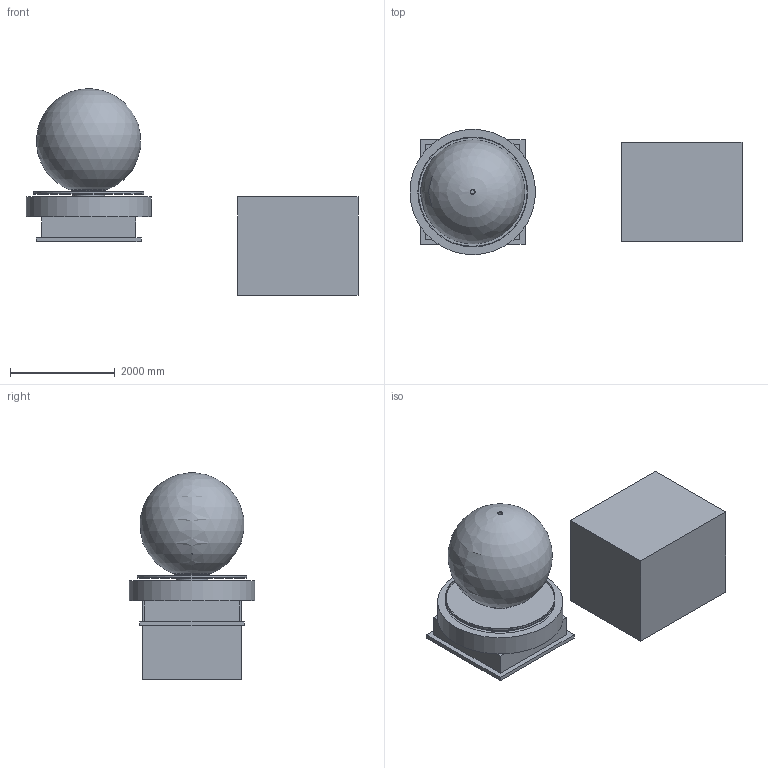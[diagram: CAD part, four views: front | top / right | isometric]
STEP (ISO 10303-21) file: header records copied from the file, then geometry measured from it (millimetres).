
FILE_DESCRIPTION(/* description */ (''),/* implementation_level */ '2;1');
FILE_NAME(/* name */ 'SPA-Fountain-RevD.step',/* time_stamp */ '2026-08-05T03:18:02+10:00',/* author */ (''),/* organization */ (''),/* preprocessor_version */ 'ST-DEVELOPER v20.1',/* originating_system */ 'Autodesk Translation Framework v15.8.0.0',/* authorisation */ '');
FILE_SCHEMA (('AUTOMOTIVE_DESIGN { 1 0 10303 214 3 1 1 }'));
Length unit declared in the file: millimetre
Products named in the file (11): 2026-08-05-01-10-42-045; 2026-08-05-01-10-57-397; 2026-08-05-01-11-41-392; 2026-08-05-01-12-41-410; 2026-08-05-01-13-16-264; 2026-08-05-01-13-52-710; 2026-08-05-01-13-53-458; 2026-08-05-01-13-54-092; 2026-08-05-03-17-34-468; 2026-08-05-03-17-36-530; 2026-08-05-03-17-37-045
Assembly tree (10 placements, depth 2):
  2026-08-05-01-10-42-045
    2026-08-05-01-10-57-397
    2026-08-05-01-11-41-392
    2026-08-05-01-12-41-410
    2026-08-05-01-13-16-264
    2026-08-05-01-13-52-710
    2026-08-05-01-13-53-458
    2026-08-05-01-13-54-092
    2026-08-05-03-17-34-468
    2026-08-05-03-17-36-530
    2026-08-05-03-17-37-045
Bounding box: 6350 x 2400 x 3949.14 mm (x, y, z)
Volume: 6879261743.8 mm3; surface area: 102442141.8 mm2
Topology: 25 solids, 26 shells, 178 faces, 398 edges, 262 vertices
Faces by surface type: plane 106, cylinder 65, sphere 5, cone 2
Full cylindrical faces by diameter (mm): 10 x4, 12 x4, 16 x6, 16.5 x2, 20 x7, 60 x4, 80 x4, 82.8 x1, 88.9 x1, 90 x2, 92 x1, 110 x1, 500 x1, 560 x1, 590 x1, 610 x1, 620 x1, 632.5 x1, 660 x2, 720 x1, 940 x2, 2080 x1, 2100 x3, 2400 x1
Entity records: 5716 total; most frequent: CARTESIAN_POINT 1131, DIRECTION 947, ORIENTED_EDGE 796, EDGE_CURVE 398, AXIS2_PLACEMENT_3D 366, VERTEX_POINT 262, EDGE_LOOP 246, LINE 215
